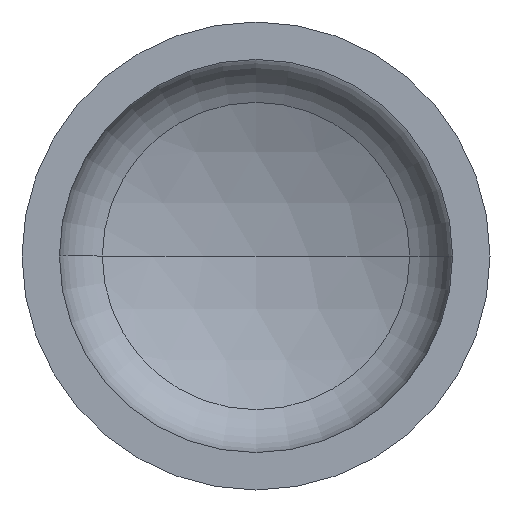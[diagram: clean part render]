
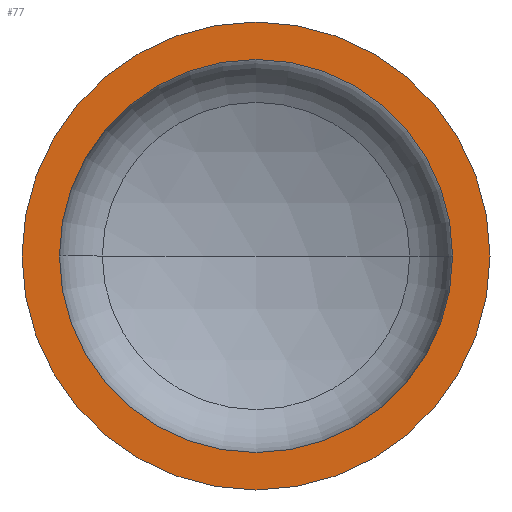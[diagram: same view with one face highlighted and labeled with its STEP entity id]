
A CAD part, front view. The second image highlights one B-rep face of the part: STEP entity #77.
In plain terms, the highlighted planar face has unit normal (0, -1, 0).
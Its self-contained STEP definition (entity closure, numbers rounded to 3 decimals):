
#3 = AXIS2_PLACEMENT_3D ( 'NONE', #392, #245, #345 ) ;
#5 = CARTESIAN_POINT ( 'NONE',  ( 378., 0., 0. ) ) ;
#7 = EDGE_LOOP ( 'NONE', ( #143, #279 ) ) ;
#11 = ORIENTED_EDGE ( 'NONE', *, *, #104, .F. ) ;
#27 = DIRECTION ( 'NONE',  ( 0., -1., 0. ) ) ;
#28 = CARTESIAN_POINT ( 'NONE',  ( 0., 0., 0. ) ) ;
#31 = CIRCLE ( 'NONE', #42, 450. ) ;
#42 = AXIS2_PLACEMENT_3D ( 'NONE', #28, #27, #43 ) ;
#43 = DIRECTION ( 'NONE',  ( 1., 0., 0. ) ) ;
#45 = EDGE_LOOP ( 'NONE', ( #11, #79 ) ) ;
#75 = AXIS2_PLACEMENT_3D ( 'NONE', #346, #360, #357 ) ;
#77 = ADVANCED_FACE ( 'NONE', ( #208, #271 ), #299, .F. ) ;
#78 = AXIS2_PLACEMENT_3D ( 'NONE', #201, #216, #220 ) ;
#79 = ORIENTED_EDGE ( 'NONE', *, *, #377, .F. ) ;
#83 = AXIS2_PLACEMENT_3D ( 'NONE', #277, #365, #259 ) ;
#98 = EDGE_CURVE ( 'NONE', #126, #354, #327, .T. ) ;
#104 = EDGE_CURVE ( 'NONE', #153, #137, #202, .T. ) ;
#126 = VERTEX_POINT ( 'NONE', #213 ) ;
#137 = VERTEX_POINT ( 'NONE', #162 ) ;
#143 = ORIENTED_EDGE ( 'NONE', *, *, #283, .T. ) ;
#153 = VERTEX_POINT ( 'NONE', #5 ) ;
#162 = CARTESIAN_POINT ( 'NONE',  ( -378., 0., 0. ) ) ;
#201 = CARTESIAN_POINT ( 'NONE',  ( 0., 0., 0. ) ) ;
#202 = CIRCLE ( 'NONE', #75, 378. ) ;
#208 = FACE_BOUND ( 'NONE', #45, .T. ) ;
#213 = CARTESIAN_POINT ( 'NONE',  ( -450., 0., 0. ) ) ;
#216 = DIRECTION ( 'NONE',  ( 0., -1., 0. ) ) ;
#220 = DIRECTION ( 'NONE',  ( 1., 0., 0. ) ) ;
#222 = CIRCLE ( 'NONE', #3, 378. ) ;
#245 = DIRECTION ( 'NONE',  ( 0., -1., 0. ) ) ;
#259 = DIRECTION ( 'NONE',  ( -1., 0., 0. ) ) ;
#271 = FACE_OUTER_BOUND ( 'NONE', #7, .T. ) ;
#277 = CARTESIAN_POINT ( 'NONE',  ( -450., 0., 0. ) ) ;
#279 = ORIENTED_EDGE ( 'NONE', *, *, #98, .T. ) ;
#283 = EDGE_CURVE ( 'NONE', #354, #126, #31, .T. ) ;
#285 = CARTESIAN_POINT ( 'NONE',  ( 450., 0., 0. ) ) ;
#299 = PLANE ( 'NONE',  #83 ) ;
#327 = CIRCLE ( 'NONE', #78, 450. ) ;
#345 = DIRECTION ( 'NONE',  ( 1., 0., 0. ) ) ;
#346 = CARTESIAN_POINT ( 'NONE',  ( 0., 0., 0. ) ) ;
#354 = VERTEX_POINT ( 'NONE', #285 ) ;
#357 = DIRECTION ( 'NONE',  ( 1., 0., 0. ) ) ;
#360 = DIRECTION ( 'NONE',  ( 0., -1., 0. ) ) ;
#365 = DIRECTION ( 'NONE',  ( 0., 1., 0. ) ) ;
#377 = EDGE_CURVE ( 'NONE', #137, #153, #222, .T. ) ;
#392 = CARTESIAN_POINT ( 'NONE',  ( 0., 0., 0. ) ) ;
